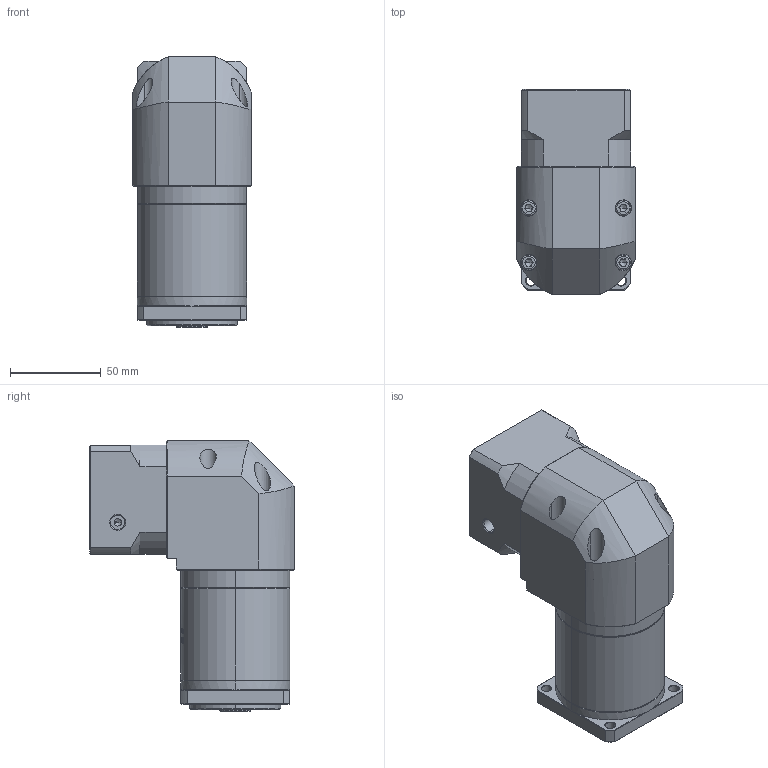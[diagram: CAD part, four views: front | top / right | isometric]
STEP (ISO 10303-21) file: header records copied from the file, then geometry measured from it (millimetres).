
FILE_DESCRIPTION (( 'STEP AP214' ), '1' );
FILE_NAME ('ZFR060-K10-L2-P2-8-30-46-M4.step', '2023-08-17T03:38:56', ( '' ), ( '' ), 'SwSTEP 2.0', 'SolidWorks 2016', '' );
FILE_SCHEMA (( 'AUTOMOTIVE_DESIGN' ));
Length unit declared in the file: millimetre
Products named in the file (1): ZFR060-K10-L2-P2-8-30-46-M4
Bounding box: 65 x 112.7 x 149 mm (x, y, z)
Volume: 586918.1 mm3; surface area: 82371.8 mm2
Topology: 5 solids, 6 shells, 1901 faces, 5120 edges, 3320 vertices
Faces by surface type: plane 838, bspline 411, cylinder 348, cone 280, torus 24
Entity records: 117884 total; most frequent: CARTESIAN_POINT 53636, ORIENTED_EDGE 10216, DIRECTION 7438, EDGE_CURVE 5108, VERTEX_POINT 3320, LINE 2534, VECTOR 2534, AXIS2_PLACEMENT_3D 2452
